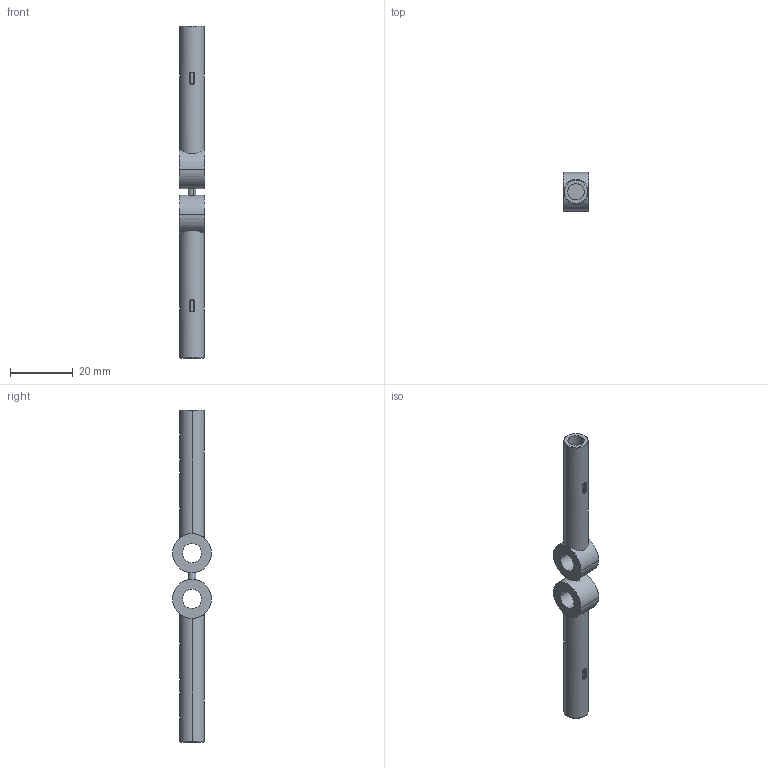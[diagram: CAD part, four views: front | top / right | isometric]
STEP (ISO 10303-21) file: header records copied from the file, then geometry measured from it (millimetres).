
FILE_DESCRIPTION(('CATIA V5 STEP Exchange'),'2;1');
FILE_NAME('G:\够快云库\系统集成开发部\1.部门成员\孙国\3D-stp打印件\1109\003.stp','2020-11-09T06:16:53+00:00',('none'),('none'),'CATIA Version 5 Release 20 GA (IN-10)','CATIA V5 STEP AP203','none');
FILE_SCHEMA(('CONFIG_CONTROL_DESIGN'));
Length unit declared in the file: millimetre
Products named in the file (1): 阀杆.1
Bounding box: 8 x 12.5 x 106 mm (x, y, z)
Volume: 3686.3 mm3; surface area: 4586.9 mm2
Topology: 1 solids, 1 shells, 158 faces, 378 edges, 224 vertices
Faces by surface type: cylinder 66, plane 48, bspline 24, torus 12, sphere 8
Entity records: 5600 total; most frequent: CARTESIAN_POINT 2413, ORIENTED_EDGE 740, DIRECTION 454, EDGE_CURVE 370, VERTEX_POINT 224, AXIS2_PLACEMENT_3D 211, EDGE_LOOP 172, ADVANCED_FACE 158
